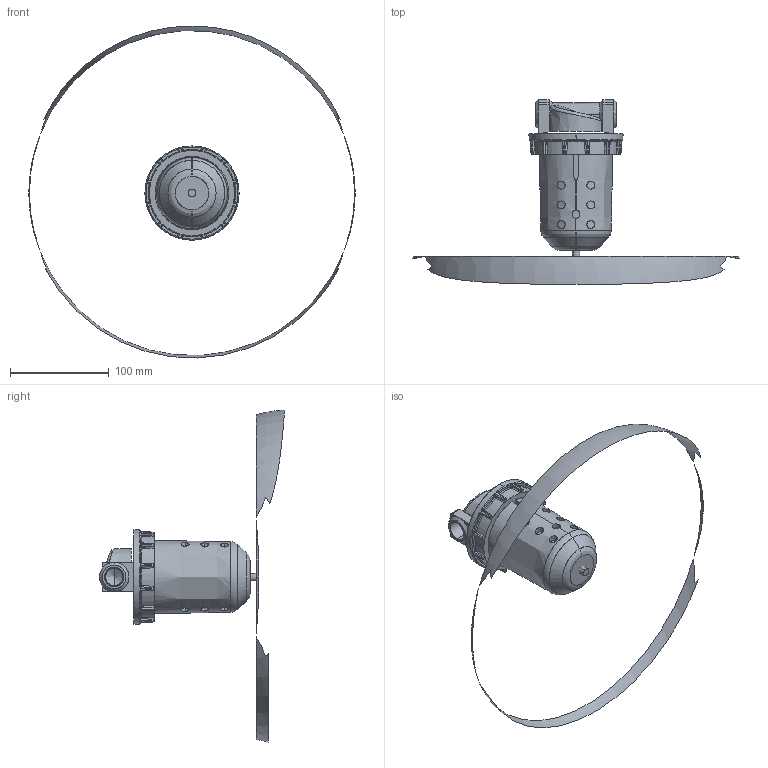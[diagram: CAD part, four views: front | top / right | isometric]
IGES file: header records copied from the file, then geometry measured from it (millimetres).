
Start section: SolidWorks IGES file using analytic representation for surfaces
Global section: file name: D:\Custom\3D繪製\FRL\F602\F602-04#YB#.IGS,1; native system: 5HSolidWorks 2014; preprocessor: SolidWorks 2014; author: Chieh_Lu; date: 160115.020227; units: millimetre
Bounding box: 331.28 x 188.04 x 337.05 mm (x, y, z)
Surface area: 73901.1 mm2 (no closed solid volume)
Topology: 0 solids, 0 shells, 363 faces, 5629 edges, 5625 vertices
Faces by surface type: bspline 201, revolution 162
